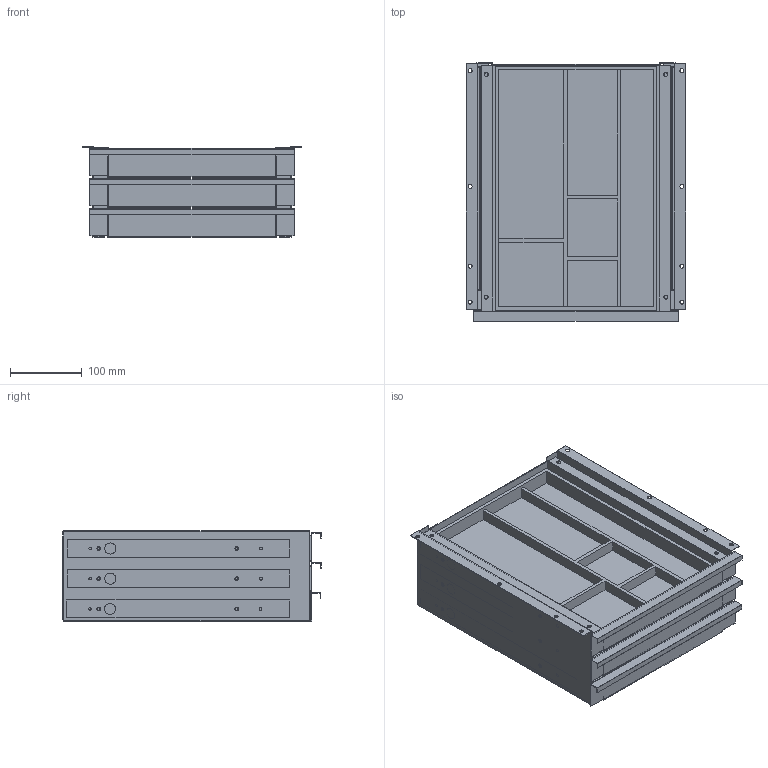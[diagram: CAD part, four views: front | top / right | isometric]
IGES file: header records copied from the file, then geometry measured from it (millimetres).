
Start section: Data from Parasolid IGES Translator 20.0.26, Copyright(c) 2006 Siemens P LM Software. All Rights Reserved.
Global section: file name: 9309826.igs; native system: By Siemens PLM Incorporated; preprocessor: XPlus GENERIC/IGES 20.0.26; author: Noname; organization: Noname; date: 20211203.160214; units: millimetre
Bounding box: 305.6 x 359.44 x 126.5 mm (x, y, z)
Surface area: 2051633.6 mm2 (no closed solid volume)
Topology: 0 solids, 0 shells, 939 faces, 5116 edges, 4895 vertices
Faces by surface type: extrusion 649, revolution 290
